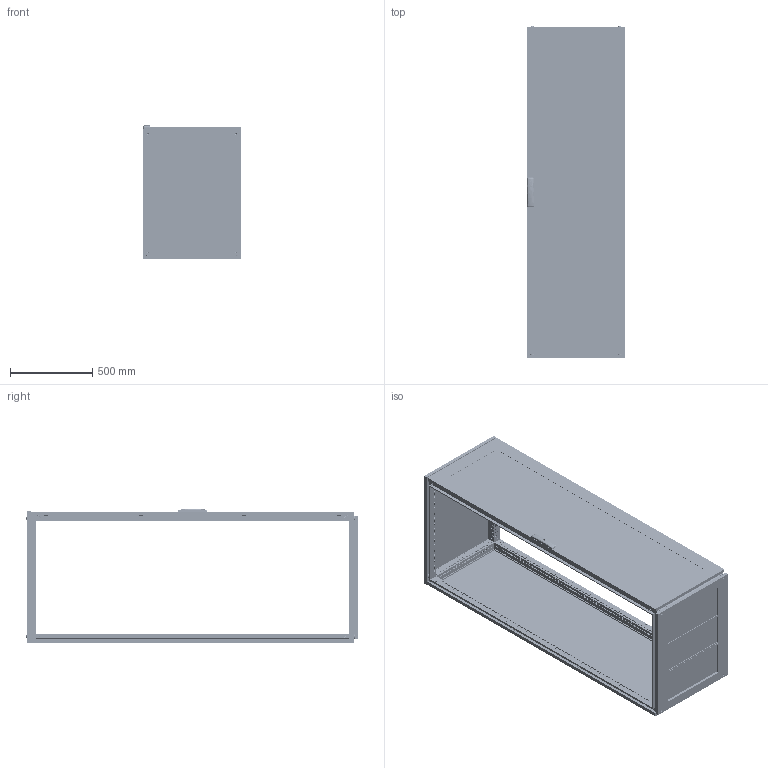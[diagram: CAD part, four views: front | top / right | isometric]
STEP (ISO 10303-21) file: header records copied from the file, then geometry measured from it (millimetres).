
FILE_DESCRIPTION (( 'STEP AP203' ), '1' );
FILE_NAME ('R5CQEN2068AX.STEP', '2025-05-07T12:07:52', ( '' ), ( '' ), 'SwSTEP 2.0', 'SolidWorks 2022', '' );
FILE_SCHEMA (( 'CONFIG_CONTROL_DESIGN' ));
Length unit declared in the file: millimetre
Products named in the file (65): RB.2969.00.00.0 СБ simple; R5CQEN2068AX; RB.0528.04.00.0 СБ simple; RB.2680.00.00.0 СБ simple; RB.1633.00.01.0 simple_-02; RB.1633.00.02.0 simple_-03; TPA.08.0083.00.00.0 simple; TPA.08.0084.00.00.0 simple; Pressing stud FH-M6-12_M6x12mm; RB.2680.00.02.0 simple; 7 DIN 6799 Zinc simple; M6x10 DIN 7500 E HX cl.5.8 Zinc_straight; RB.1957.00.00.0 simple_-06; RB.1867.01.00.0 СБ simple_-25; RB.2685.00.00.0 simple_-03; Glue CPTE simple_2000x0600; RB.2696.00.00.0 simple; М6х12 A5100231_straight; R5NKTB - Assem simple_H=2000 R5NKTB68; RB.2528.00.00.0 simple_-05; RB.2968.00.00.0 simple; RB.2052.01.00.0 СБ simple_-23; ATOS Traction guide ILY03.35; RB.0562.00.00.0 СБ simple_-15; RB.2456.00.00.0 simple_-03; RB.2755.00.00.0 СБ simple_-15; 4.8x13 DIN 7981 PH Zinc_straight; M6x15 Erickson cl.4,8 Zinc; RB.0528.04.01.0 simple; RB.2702.00.00.0 simple; 7 DIN 6799 Zinc; TPA.08.0139.00.03.0; RB.2357.00.00.0 simple_-03; RB.2686.00.00.0 simple; PF 5x10 KTB simple_600x800; PF 7x14 CRE simple_2000x0600; 4,0x16 F Torx Zinc (ART 88200)_thread; RB.1867.01.01.0 simple_-10; RB.0054.01.01.0 simple_-23; PF 7,5x15 CPE simple_2000x0600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
Assembly tree (173 placements, depth 5):
  R5CQEN2068AX
    R5NCPTE - Assem simple_R5NCPTE2060
      RB.0562.00.00.0 СБ simple_-15
        RB.0562.01.00.0 СБ simple_-15
          RB.0562.01.01.0 simple_-15
          М6х12 A5100231_straight  x7
          RB.2702.00.00.0 simple  x4
          PF 7,5x15 CPE simple_2000x0600
          Glass CPTE_2000x0600
          Glue CPTE simple_2000x0600
        Square cap 20x20 simple  x2
        M6x15 Erickson cl.4,8 Zinc  x2
        RB.0528.00.01.0 simple_-05  x2
        ATOS Traction guide ILY03.35  x4
        RB.2357.00.00.0 simple_-03
        RB.2680.00.00.0 СБ simple
          TPA.08.0139.00.01.0 simple
          RB.2680.00.01.0 simple
          RB.2680.00.02.0 simple  x2
        TPA.08.0139.00.03.0  x2
        M6 DIN 985 cl.6,0 Zinc_straight  x4
        4,0x16 F Torx Zinc (ART 88200)_thread  x2
        RB.0528.04.00.0 СБ simple  x2
          RB.0528.04.01.0 simple
          Pressing stud FH-M6-12_M6x12mm
      M6x10 DIN 912 HX cl.8,8 Zinc_straight  x8
      4.8x13 DIN 7981 PH Zinc_straight
      7 DIN 6799 Zinc simple  x4
      RB.2968.00.00.0 simple  x4
      RB.2969.00.00.0 СБ simple  x4
        RB.2969.00.01.0 simple
        Pin 4x16 DIN 7 AISI 303 (A1) simple
        M6 MGR-MKO-0625 simple_Thread
      AC00C446-R
      RB.2696.00.00.0 simple  x4
      7 DIN 6799 Zinc  x4
    R5NCRE-Assem simple_R5NCRE2060
      RB.2052.00.00.0 СБ simple_-23
        RB.2052.01.00.0 СБ simple_-23
          RB.0054.01.01.0 simple_-23
          М6х12 A5100231_straight  x4
        PF 7x14 CRE simple_2000x0600
      RB.2172.00.00.1 simple  x8
      M6x10 DIN 7500 E HX cl.5.8 Zinc_straight  x8
      M6x10 DIN 7500 M Torx cl.5.8 Zinc_straight  x8
    R5NKMN - Assem simple_R5NKMN20 (600х800)
      RB.2528.00.00.0 simple_-05  x4
    R5NKTB - Assem simple_H=2000 R5NKTB68
      RB.2499.00.00.0 СБ simple_-15
        RB.2499.01.00.0 СБ simple_-14
          RB.1633.00.01.0 simple_-02  x2
          RB.1633.00.02.0 simple_-03  x2
          PF 5x10 KTB simple_600x800
        RB.2457.00.00.0 СБ simple_-15
          RB.2455.00.00.0 simple_-02  x2
          RB.2456.00.00.0 simple_-03  x2
          TPA.08.0084.00.00.0 simple  x2
          TPA.08.0083.00.00.0 simple  x2
          M8x12 AC00C476 cl.8,8 Zinc_stright  x4
        RB.1957.00.00.0 simple_-06  x3
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Bounding box: 600 x 2013.3 x 814.79 mm (x, y, z)
Volume: 15558027.9 mm3; surface area: 13982916.7 mm2
Topology: 176 solids, 192 shells, 23117 faces, 65647 edges, 43267 vertices
Faces by surface type: plane 12851, cylinder 8725, cone 704, bspline 435, torus 368, sphere 34
Entity records: 230021 total; most frequent: CARTESIAN_POINT 56355, ORIENTED_EDGE 34474, DIRECTION 32951, EDGE_CURVE 17263, VERTEX_POINT 11434, AXIS2_PLACEMENT_3D 11069, LINE 10813, VECTOR 10813
